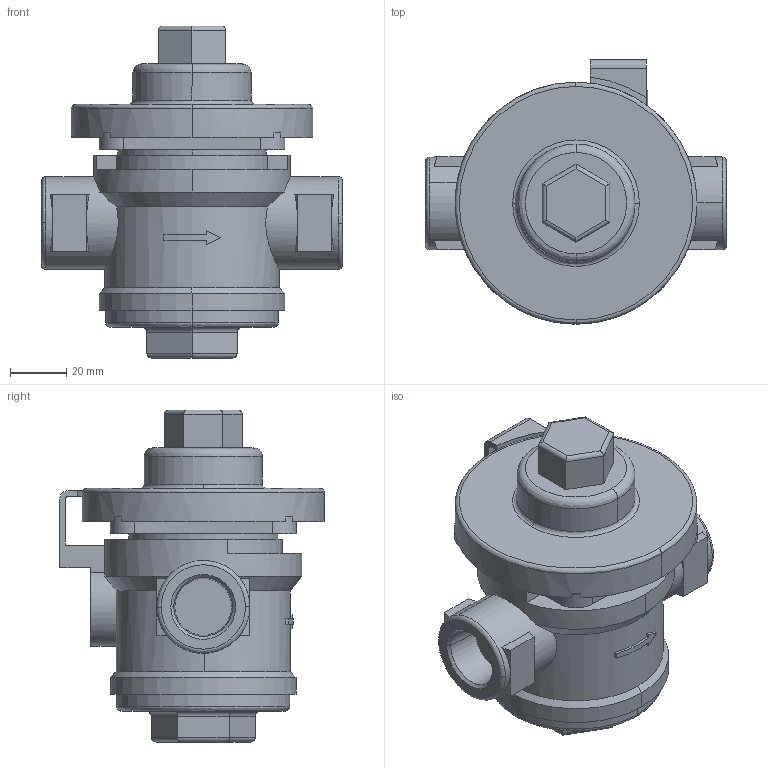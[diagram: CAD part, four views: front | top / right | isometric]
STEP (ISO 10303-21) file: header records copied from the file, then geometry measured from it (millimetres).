
FILE_DESCRIPTION( (''), '2;1');
FILE_NAME ('PC1027.12188.TS-7 15A_1832.stp','2025-07-31T16:23:29',(''),(''),'spGate 20.6.3 (****-****-****-****)','','');
FILE_SCHEMA (('AUTOMOTIVE_DESIGN'));
Length unit declared in the file: millimetre
Products named in the file (2): Assembly; TS-7 15A
Assembly tree (1 placements, depth 2):
  Assembly
    TS-7 15A
Bounding box: 107 x 94 x 118 mm (x, y, z)
Volume: 367776.8 mm3; surface area: 44846.4 mm2
Topology: 1 solids, 1 shells, 154 faces, 391 edges, 252 vertices
Faces by surface type: plane 83, cylinder 46, bspline 25
Entity records: 8334 total; most frequent: CARTESIAN_POINT 1689, ORIENTED_EDGE 782, DIRECTION 667, COLOUR_RGB 546, PRESENTATION_STYLE_ASSIGNMENT 546, STYLED_ITEM 546, EDGE_CURVE 391, DRAUGHTING_PRE_DEFINED_CURVE_FONT 391
